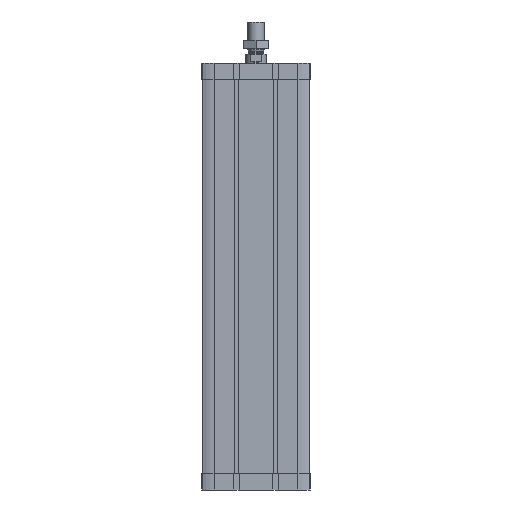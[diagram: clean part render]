
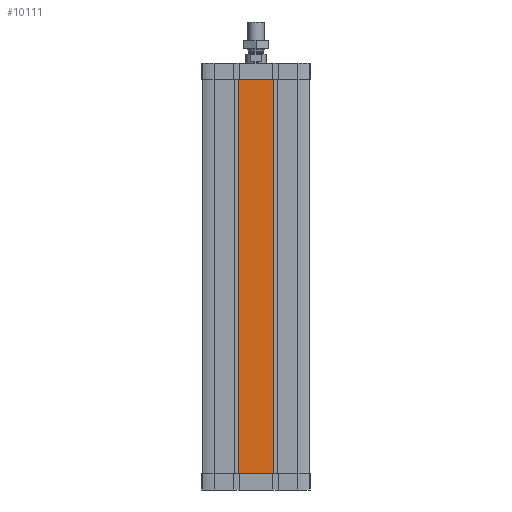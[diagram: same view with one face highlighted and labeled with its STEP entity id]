
A CAD part, front view. The second image highlights one B-rep face of the part: STEP entity #10111.
In plain terms, the highlighted planar face has unit normal (0, -1, 0).
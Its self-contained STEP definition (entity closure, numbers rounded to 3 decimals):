
#157 = VECTOR ( 'NONE', #6587, 1000. ) ;
#665 = CARTESIAN_POINT ( 'NONE',  ( 20.687, -67., -20. ) ) ;
#891 = DIRECTION ( 'NONE',  ( 1., 0., 0. ) ) ;
#980 = CARTESIAN_POINT ( 'NONE',  ( -67., -67., -511. ) ) ;
#1448 = LINE ( 'NONE', #7067, #8037 ) ;
#1548 = EDGE_CURVE ( 'NONE', #16031, #2225, #11945, .T. ) ;
#1684 = DIRECTION ( 'NONE',  ( 0., 0., 1. ) ) ;
#1990 = EDGE_CURVE ( 'NONE', #16744, #14983, #7889, .T. ) ;
#2128 = DIRECTION ( 'NONE',  ( 0., 0., -1. ) ) ;
#2225 = VERTEX_POINT ( 'NONE', #9996 ) ;
#2712 = ORIENTED_EDGE ( 'NONE', *, *, #11075, .T. ) ;
#3152 = PLANE ( 'NONE',  #6583 ) ;
#3215 = EDGE_CURVE ( 'NONE', #2225, #13794, #5207, .T. ) ;
#3664 = CARTESIAN_POINT ( 'NONE',  ( -21.3, -67., -20. ) ) ;
#4406 = LINE ( 'NONE', #5431, #16827 ) ;
#4690 = CARTESIAN_POINT ( 'NONE',  ( -21.3, -67., -20. ) ) ;
#4718 = LINE ( 'NONE', #10322, #9660 ) ;
#5121 = CARTESIAN_POINT ( 'NONE',  ( 21.3, -67., -511. ) ) ;
#5207 = LINE ( 'NONE', #5121, #157 ) ;
#5431 = CARTESIAN_POINT ( 'NONE',  ( -67., -67., -20. ) ) ;
#6250 = CARTESIAN_POINT ( 'NONE',  ( -67., -67., -511. ) ) ;
#6510 = ORIENTED_EDGE ( 'NONE', *, *, #16389, .F. ) ;
#6583 = AXIS2_PLACEMENT_3D ( 'NONE', #14328, #9032, #2128 ) ;
#6587 = DIRECTION ( 'NONE',  ( 0., 0., 1. ) ) ;
#7067 = CARTESIAN_POINT ( 'NONE',  ( -21.3, -67., -511. ) ) ;
#7889 = LINE ( 'NONE', #980, #17095 ) ;
#7995 = VECTOR ( 'NONE', #10388, 1000. ) ;
#8037 = VECTOR ( 'NONE', #15577, 1000. ) ;
#8099 = CARTESIAN_POINT ( 'NONE',  ( -20.687, -67., -511. ) ) ;
#9032 = DIRECTION ( 'NONE',  ( 0., -1., 0. ) ) ;
#9074 = ORIENTED_EDGE ( 'NONE', *, *, #17405, .F. ) ;
#9353 = DIRECTION ( 'NONE',  ( 1., 0., 0. ) ) ;
#9384 = VECTOR ( 'NONE', #14850, 1000. ) ;
#9429 = EDGE_LOOP ( 'NONE', ( #15638, #13761, #2712, #12673, #12381, #9074, #6510, #17862 ) ) ;
#9660 = VECTOR ( 'NONE', #1684, 1000. ) ;
#9994 = CARTESIAN_POINT ( 'NONE',  ( -20.687, -67., -20. ) ) ;
#9996 = CARTESIAN_POINT ( 'NONE',  ( 21.3, -67., -511. ) ) ;
#10111 = ADVANCED_FACE ( 'NONE', ( #10401 ), #3152, .T. ) ;
#10281 = LINE ( 'NONE', #17323, #9384 ) ;
#10307 = EDGE_CURVE ( 'NONE', #11844, #12559, #4406, .T. ) ;
#10322 = CARTESIAN_POINT ( 'NONE',  ( -21.3, -67., -511. ) ) ;
#10388 = DIRECTION ( 'NONE',  ( 1., 0., 0. ) ) ;
#10401 = FACE_OUTER_BOUND ( 'NONE', #9429, .T. ) ;
#11039 = DIRECTION ( 'NONE',  ( 1., 0., 0. ) ) ;
#11075 = EDGE_CURVE ( 'NONE', #14983, #16031, #1448, .T. ) ;
#11512 = VERTEX_POINT ( 'NONE', #665 ) ;
#11844 = VERTEX_POINT ( 'NONE', #4690 ) ;
#11910 = CARTESIAN_POINT ( 'NONE',  ( 21.3, -67., -20. ) ) ;
#11945 = LINE ( 'NONE', #6250, #7995 ) ;
#12381 = ORIENTED_EDGE ( 'NONE', *, *, #3215, .T. ) ;
#12464 = LINE ( 'NONE', #3664, #14307 ) ;
#12559 = VERTEX_POINT ( 'NONE', #9994 ) ;
#12673 = ORIENTED_EDGE ( 'NONE', *, *, #1548, .T. ) ;
#13761 = ORIENTED_EDGE ( 'NONE', *, *, #1990, .T. ) ;
#13794 = VERTEX_POINT ( 'NONE', #11910 ) ;
#14307 = VECTOR ( 'NONE', #9353, 1000. ) ;
#14328 = CARTESIAN_POINT ( 'NONE',  ( -67., -67., -511. ) ) ;
#14850 = DIRECTION ( 'NONE',  ( 1., 0., 0. ) ) ;
#14983 = VERTEX_POINT ( 'NONE', #8099 ) ;
#15220 = CARTESIAN_POINT ( 'NONE',  ( 20.687, -67., -511. ) ) ;
#15577 = DIRECTION ( 'NONE',  ( 1., 0., 0. ) ) ;
#15638 = ORIENTED_EDGE ( 'NONE', *, *, #17052, .F. ) ;
#16031 = VERTEX_POINT ( 'NONE', #15220 ) ;
#16389 = EDGE_CURVE ( 'NONE', #12559, #11512, #12464, .T. ) ;
#16744 = VERTEX_POINT ( 'NONE', #17392 ) ;
#16827 = VECTOR ( 'NONE', #11039, 1000. ) ;
#17052 = EDGE_CURVE ( 'NONE', #16744, #11844, #4718, .T. ) ;
#17095 = VECTOR ( 'NONE', #891, 1000. ) ;
#17323 = CARTESIAN_POINT ( 'NONE',  ( -67., -67., -20. ) ) ;
#17392 = CARTESIAN_POINT ( 'NONE',  ( -21.3, -67., -511. ) ) ;
#17405 = EDGE_CURVE ( 'NONE', #11512, #13794, #10281, .T. ) ;
#17862 = ORIENTED_EDGE ( 'NONE', *, *, #10307, .F. ) ;
